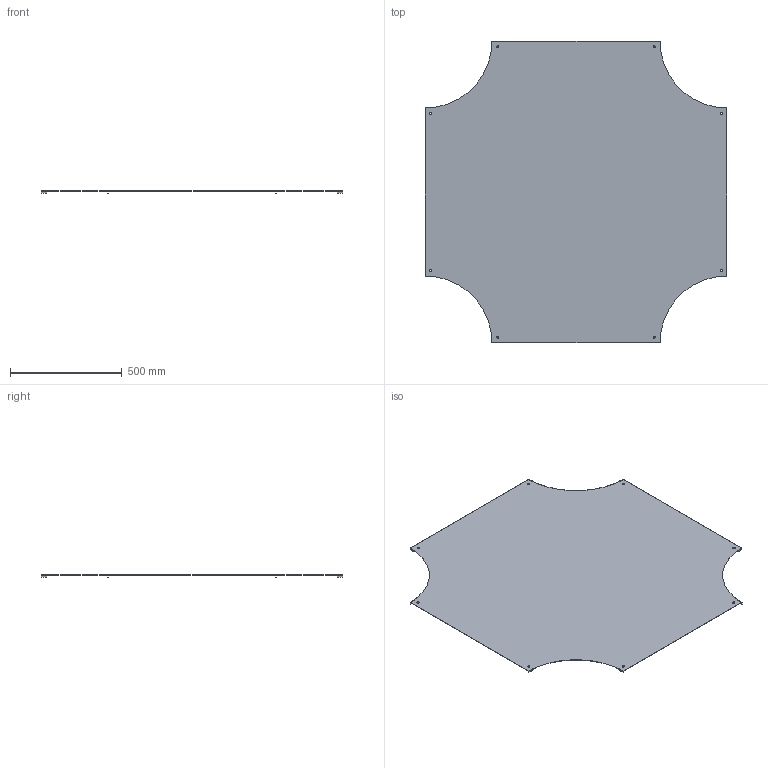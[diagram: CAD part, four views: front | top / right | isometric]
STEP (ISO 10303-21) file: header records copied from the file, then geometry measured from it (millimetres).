
FILE_DESCRIPTION(/* description */ ('','CAx-IF Rec.Pracs.---Representation and Presentation of Product Manufacturing Information (PMI)---4.0---2014-10-13'),/* implementation_level */ '2;1');
FILE_NAME(/* name */ 'Eurostrut_ECOC700-300_Cover Crossover for Cable Ladder ECL.step',/* time_stamp */ '2026-09-10T10:50:12+02:00',/* author */ (''),/* organization */ (''),/* preprocessor_version */ 'ST-DEVELOPER v20.1',/* originating_system */ 'Autodesk Revit 2027 27.2.0.39',/* authorisation */ '');
FILE_SCHEMA (('AP242_MANAGED_MODEL_BASED_3D_ENGINEERING_MIM_LF { 1 0 10303 442 2 1 4 }'));
Length unit declared in the file: millimetre
Products named in the file (6): TopLevelAssembly; Joined Solid Geometry; Joined Solid Geometry_1; Joined Solid Geometry_2; Joined Solid Geometry_3; Joined Solid Geometry_4
Assembly tree (5 placements, depth 2):
  TopLevelAssembly
    Joined Solid Geometry
    Joined Solid Geometry_1
    Joined Solid Geometry_2
    Joined Solid Geometry_3
    Joined Solid Geometry_4
Bounding box: 1350 x 1350 x 9 mm (x, y, z)
Volume: 2315175.7 mm3; surface area: 3095390.2 mm2
Topology: 9 solids, 9 shells, 74 faces, 168 edges, 112 vertices
Faces by surface type: plane 38, cylinder 36
Entity records: 2242 total; most frequent: DIRECTION 410, CARTESIAN_POINT 365, ORIENTED_EDGE 336, EDGE_CURVE 168, AXIS2_PLACEMENT_3D 157, VERTEX_POINT 112, LINE 96, VECTOR 96
